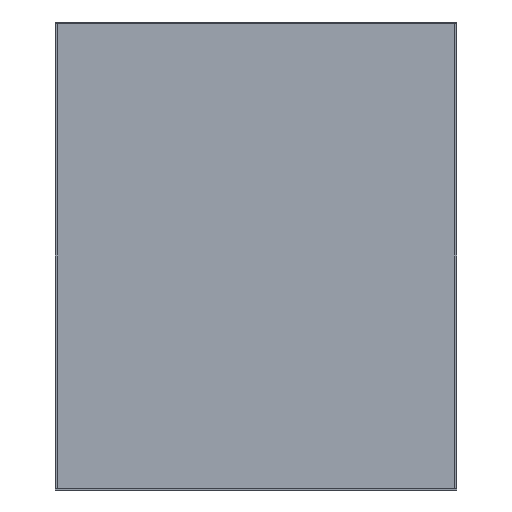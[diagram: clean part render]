
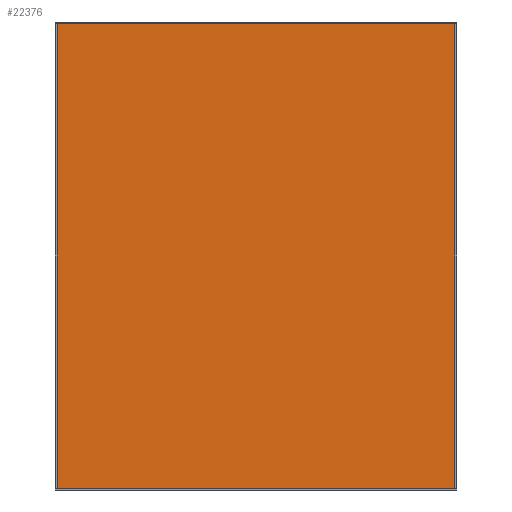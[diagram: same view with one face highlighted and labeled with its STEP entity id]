
A CAD part, front view. The second image highlights one B-rep face of the part: STEP entity #22376.
In plain terms, the highlighted planar face has unit normal (0, -1, 0).
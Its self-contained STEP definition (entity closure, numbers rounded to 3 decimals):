
#22160 = EDGE_CURVE('',#22161,#22163,#22165,.T.);
#22161 = VERTEX_POINT('',#22162);
#22162 = CARTESIAN_POINT('',(-0.155,-0.096,0.002)
  );
#22163 = VERTEX_POINT('',#22164);
#22164 = CARTESIAN_POINT('',(-0.155,-0.096,
    0.364));
#22165 = SURFACE_CURVE('',#22166,(#22170,#22182),.PCURVE_S1.);
#22166 = LINE('',#22167,#22168);
#22167 = CARTESIAN_POINT('',(-0.155,-0.096,0.002)
  );
#22168 = VECTOR('',#22169,1.);
#22169 = DIRECTION('',(0.,0.,1.));
#22170 = PCURVE('',#22171,#22176);
#22171 = PLANE('',#22172);
#22172 = AXIS2_PLACEMENT_3D('',#22173,#22174,#22175);
#22173 = CARTESIAN_POINT('',(-0.155,-0.096,0.002)
  );
#22174 = DIRECTION('',(1.,0.,0.));
#22175 = DIRECTION('',(0.,0.,1.));
#22176 = DEFINITIONAL_REPRESENTATION('',(#22177),#22181);
#22177 = LINE('',#22178,#22179);
#22178 = CARTESIAN_POINT('',(0.,0.));
#22179 = VECTOR('',#22180,1.);
#22180 = DIRECTION('',(1.,0.));
#22181 = ( GEOMETRIC_REPRESENTATION_CONTEXT(2) 
PARAMETRIC_REPRESENTATION_CONTEXT() REPRESENTATION_CONTEXT('2D SPACE',''
  ) );
#22182 = PCURVE('',#22183,#22188);
#22183 = PLANE('',#22184);
#22184 = AXIS2_PLACEMENT_3D('',#22185,#22186,#22187);
#22185 = CARTESIAN_POINT('',(-0.155,-0.096,0.002)
  );
#22186 = DIRECTION('',(0.,1.,0.));
#22187 = DIRECTION('',(0.,0.,1.));
#22188 = DEFINITIONAL_REPRESENTATION('',(#22189),#22193);
#22189 = LINE('',#22190,#22191);
#22190 = CARTESIAN_POINT('',(0.,0.));
#22191 = VECTOR('',#22192,1.);
#22192 = DIRECTION('',(1.,0.));
#22193 = ( GEOMETRIC_REPRESENTATION_CONTEXT(2) 
PARAMETRIC_REPRESENTATION_CONTEXT() REPRESENTATION_CONTEXT('2D SPACE',''
  ) );
#22211 = PLANE('',#22212);
#22212 = AXIS2_PLACEMENT_3D('',#22213,#22214,#22215);
#22213 = CARTESIAN_POINT('',(-0.155,-0.096,0.002)
  );
#22214 = DIRECTION('',(0.,0.,1.));
#22215 = DIRECTION('',(1.,0.,0.));
#22265 = PLANE('',#22266);
#22266 = AXIS2_PLACEMENT_3D('',#22267,#22268,#22269);
#22267 = CARTESIAN_POINT('',(-0.155,-0.096,
    0.364));
#22268 = DIRECTION('',(0.,0.,1.));
#22269 = DIRECTION('',(1.,0.,0.));
#22280 = EDGE_CURVE('',#22281,#22283,#22285,.T.);
#22281 = VERTEX_POINT('',#22282);
#22282 = CARTESIAN_POINT('',(0.155,-0.096,0.002)
  );
#22283 = VERTEX_POINT('',#22284);
#22284 = CARTESIAN_POINT('',(0.155,-0.096,
    0.364));
#22285 = SURFACE_CURVE('',#22286,(#22290,#22302),.PCURVE_S1.);
#22286 = LINE('',#22287,#22288);
#22287 = CARTESIAN_POINT('',(0.155,-0.096,0.002)
  );
#22288 = VECTOR('',#22289,1.);
#22289 = DIRECTION('',(0.,0.,1.));
#22290 = PCURVE('',#22291,#22296);
#22291 = PLANE('',#22292);
#22292 = AXIS2_PLACEMENT_3D('',#22293,#22294,#22295);
#22293 = CARTESIAN_POINT('',(0.155,-0.096,0.002)
  );
#22294 = DIRECTION('',(1.,0.,0.));
#22295 = DIRECTION('',(0.,0.,1.));
#22296 = DEFINITIONAL_REPRESENTATION('',(#22297),#22301);
#22297 = LINE('',#22298,#22299);
#22298 = CARTESIAN_POINT('',(0.,0.));
#22299 = VECTOR('',#22300,1.);
#22300 = DIRECTION('',(1.,0.));
#22301 = ( GEOMETRIC_REPRESENTATION_CONTEXT(2) 
PARAMETRIC_REPRESENTATION_CONTEXT() REPRESENTATION_CONTEXT('2D SPACE',''
  ) );
#22302 = PCURVE('',#22183,#22303);
#22303 = DEFINITIONAL_REPRESENTATION('',(#22304),#22308);
#22304 = LINE('',#22305,#22306);
#22305 = CARTESIAN_POINT('',(0.,0.31));
#22306 = VECTOR('',#22307,1.);
#22307 = DIRECTION('',(1.,0.));
#22308 = ( GEOMETRIC_REPRESENTATION_CONTEXT(2) 
PARAMETRIC_REPRESENTATION_CONTEXT() REPRESENTATION_CONTEXT('2D SPACE',''
  ) );
#22376 = ADVANCED_FACE('',(#22377),#22183,.F.);
#22377 = FACE_BOUND('',#22378,.F.);
#22378 = EDGE_LOOP('',(#22379,#22400,#22401,#22422));
#22379 = ORIENTED_EDGE('',*,*,#22380,.F.);
#22380 = EDGE_CURVE('',#22161,#22281,#22381,.T.);
#22381 = SURFACE_CURVE('',#22382,(#22386,#22393),.PCURVE_S1.);
#22382 = LINE('',#22383,#22384);
#22383 = CARTESIAN_POINT('',(-0.155,-0.096,0.002)
  );
#22384 = VECTOR('',#22385,1.);
#22385 = DIRECTION('',(1.,0.,0.));
#22386 = PCURVE('',#22183,#22387);
#22387 = DEFINITIONAL_REPRESENTATION('',(#22388),#22392);
#22388 = LINE('',#22389,#22390);
#22389 = CARTESIAN_POINT('',(0.,0.));
#22390 = VECTOR('',#22391,1.);
#22391 = DIRECTION('',(0.,1.));
#22392 = ( GEOMETRIC_REPRESENTATION_CONTEXT(2) 
PARAMETRIC_REPRESENTATION_CONTEXT() REPRESENTATION_CONTEXT('2D SPACE',''
  ) );
#22393 = PCURVE('',#22211,#22394);
#22394 = DEFINITIONAL_REPRESENTATION('',(#22395),#22399);
#22395 = LINE('',#22396,#22397);
#22396 = CARTESIAN_POINT('',(0.,0.));
#22397 = VECTOR('',#22398,1.);
#22398 = DIRECTION('',(1.,0.));
#22399 = ( GEOMETRIC_REPRESENTATION_CONTEXT(2) 
PARAMETRIC_REPRESENTATION_CONTEXT() REPRESENTATION_CONTEXT('2D SPACE',''
  ) );
#22400 = ORIENTED_EDGE('',*,*,#22160,.T.);
#22401 = ORIENTED_EDGE('',*,*,#22402,.T.);
#22402 = EDGE_CURVE('',#22163,#22283,#22403,.T.);
#22403 = SURFACE_CURVE('',#22404,(#22408,#22415),.PCURVE_S1.);
#22404 = LINE('',#22405,#22406);
#22405 = CARTESIAN_POINT('',(-0.155,-0.096,
    0.364));
#22406 = VECTOR('',#22407,1.);
#22407 = DIRECTION('',(1.,0.,0.));
#22408 = PCURVE('',#22183,#22409);
#22409 = DEFINITIONAL_REPRESENTATION('',(#22410),#22414);
#22410 = LINE('',#22411,#22412);
#22411 = CARTESIAN_POINT('',(0.362,0.));
#22412 = VECTOR('',#22413,1.);
#22413 = DIRECTION('',(0.,1.));
#22414 = ( GEOMETRIC_REPRESENTATION_CONTEXT(2) 
PARAMETRIC_REPRESENTATION_CONTEXT() REPRESENTATION_CONTEXT('2D SPACE',''
  ) );
#22415 = PCURVE('',#22265,#22416);
#22416 = DEFINITIONAL_REPRESENTATION('',(#22417),#22421);
#22417 = LINE('',#22418,#22419);
#22418 = CARTESIAN_POINT('',(0.,0.));
#22419 = VECTOR('',#22420,1.);
#22420 = DIRECTION('',(1.,0.));
#22421 = ( GEOMETRIC_REPRESENTATION_CONTEXT(2) 
PARAMETRIC_REPRESENTATION_CONTEXT() REPRESENTATION_CONTEXT('2D SPACE',''
  ) );
#22422 = ORIENTED_EDGE('',*,*,#22280,.F.);
